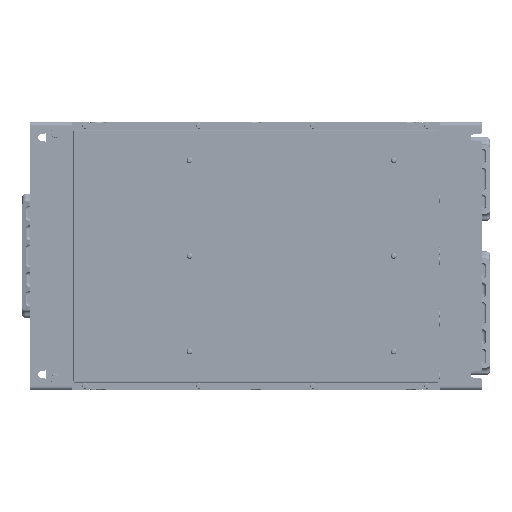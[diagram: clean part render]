
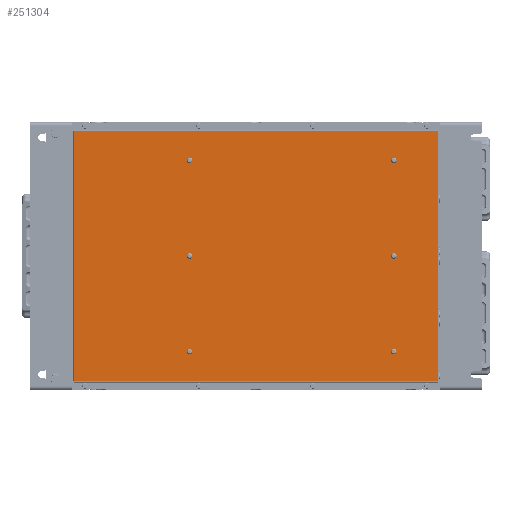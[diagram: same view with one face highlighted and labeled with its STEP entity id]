
A CAD part, front view. The second image highlights one B-rep face of the part: STEP entity #251304.
In plain terms, the highlighted planar face has unit normal (0, -1, 0).
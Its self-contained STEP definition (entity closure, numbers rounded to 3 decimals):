
#226663=DIRECTION('',(0.,0.,1.));
#226664=VECTOR('',#226663,475.);
#226665=CARTESIAN_POINT('',(-164.,-1.,-237.5));
#226666=LINE('',#226665,#226664);
#226721=DIRECTION('',(1.,0.,0.));
#226722=VECTOR('',#226721,328.);
#226723=CARTESIAN_POINT('',(-164.,-1.,237.5));
#226724=LINE('',#226723,#226722);
#236218=DIRECTION('',(0.,0.,-1.));
#236219=VECTOR('',#236218,475.);
#236220=CARTESIAN_POINT('',(164.,-1.,237.5));
#236221=LINE('',#236220,#236219);
#237212=DIRECTION('',(-1.,0.,0.));
#237213=VECTOR('',#237212,328.);
#237214=CARTESIAN_POINT('',(164.,-1.,-237.5));
#237215=LINE('',#237214,#237213);
#237527=CARTESIAN_POINT('',(125.,-1.,-180.));
#237528=DIRECTION('',(0.,-1.,0.));
#237529=DIRECTION('',(1.,0.,0.));
#237530=AXIS2_PLACEMENT_3D('',#237527,#237528,#237529);
#237535=CARTESIAN_POINT('',(125.,-1.,-180.));
#237536=DIRECTION('',(0.,-1.,0.));
#237537=DIRECTION('',(-1.,0.,0.));
#237538=AXIS2_PLACEMENT_3D('',#237535,#237536,#237537);
#237543=CARTESIAN_POINT('',(0.,-1.,-180.));
#237544=DIRECTION('',(0.,-1.,0.));
#237545=DIRECTION('',(1.,0.,0.));
#237546=AXIS2_PLACEMENT_3D('',#237543,#237544,#237545);
#237551=CARTESIAN_POINT('',(0.,-1.,-180.));
#237552=DIRECTION('',(0.,-1.,0.));
#237553=DIRECTION('',(-1.,0.,0.));
#237554=AXIS2_PLACEMENT_3D('',#237551,#237552,#237553);
#237559=CARTESIAN_POINT('',(-125.,-1.,-180.));
#237560=DIRECTION('',(0.,-1.,0.));
#237561=DIRECTION('',(1.,0.,0.));
#237562=AXIS2_PLACEMENT_3D('',#237559,#237560,#237561);
#237567=CARTESIAN_POINT('',(-125.,-1.,-180.));
#237568=DIRECTION('',(0.,-1.,0.));
#237569=DIRECTION('',(-1.,0.,0.));
#237570=AXIS2_PLACEMENT_3D('',#237567,#237568,#237569);
#237575=CARTESIAN_POINT('',(125.,-1.,87.));
#237576=DIRECTION('',(0.,-1.,0.));
#237577=DIRECTION('',(1.,0.,0.));
#237578=AXIS2_PLACEMENT_3D('',#237575,#237576,#237577);
#237583=CARTESIAN_POINT('',(125.,-1.,87.));
#237584=DIRECTION('',(0.,-1.,0.));
#237585=DIRECTION('',(-1.,0.,0.));
#237586=AXIS2_PLACEMENT_3D('',#237583,#237584,#237585);
#237591=CARTESIAN_POINT('',(0.,-1.,87.));
#237592=DIRECTION('',(0.,-1.,0.));
#237593=DIRECTION('',(1.,0.,0.));
#237594=AXIS2_PLACEMENT_3D('',#237591,#237592,#237593);
#237599=CARTESIAN_POINT('',(0.,-1.,87.));
#237600=DIRECTION('',(0.,-1.,0.));
#237601=DIRECTION('',(-1.,0.,0.));
#237602=AXIS2_PLACEMENT_3D('',#237599,#237600,#237601);
#237607=CARTESIAN_POINT('',(-125.,-1.,87.));
#237608=DIRECTION('',(0.,-1.,0.));
#237609=DIRECTION('',(1.,0.,0.));
#237610=AXIS2_PLACEMENT_3D('',#237607,#237608,#237609);
#237615=CARTESIAN_POINT('',(-125.,-1.,87.));
#237616=DIRECTION('',(0.,-1.,0.));
#237617=DIRECTION('',(-1.,0.,0.));
#237618=AXIS2_PLACEMENT_3D('',#237615,#237616,#237617);
#243259=CARTESIAN_POINT('',(164.,-1.,-237.5));
#243260=VERTEX_POINT('',#243259);
#243261=CARTESIAN_POINT('',(164.,-1.,237.5));
#243262=VERTEX_POINT('',#243261);
#243275=CARTESIAN_POINT('',(-164.,-1.,237.5));
#243276=VERTEX_POINT('',#243275);
#243277=CARTESIAN_POINT('',(-164.,-1.,-237.5));
#243278=VERTEX_POINT('',#243277);
#243451=CARTESIAN_POINT('',(127.25,-1.,-180.));
#243452=CARTESIAN_POINT('',(122.75,-1.,-180.));
#243453=VERTEX_POINT('',#243451);
#243454=VERTEX_POINT('',#243452);
#243459=CARTESIAN_POINT('',(2.25,-1.,-180.));
#243460=CARTESIAN_POINT('',(-2.25,-1.,-180.));
#243461=VERTEX_POINT('',#243459);
#243462=VERTEX_POINT('',#243460);
#243467=CARTESIAN_POINT('',(-122.75,-1.,-180.));
#243468=CARTESIAN_POINT('',(-127.25,-1.,-180.));
#243469=VERTEX_POINT('',#243467);
#243470=VERTEX_POINT('',#243468);
#243475=CARTESIAN_POINT('',(127.25,-1.,87.));
#243476=CARTESIAN_POINT('',(122.75,-1.,87.));
#243477=VERTEX_POINT('',#243475);
#243478=VERTEX_POINT('',#243476);
#243483=CARTESIAN_POINT('',(2.25,-1.,87.));
#243484=CARTESIAN_POINT('',(-2.25,-1.,87.));
#243485=VERTEX_POINT('',#243483);
#243486=VERTEX_POINT('',#243484);
#243491=CARTESIAN_POINT('',(-122.75,-1.,87.));
#243492=CARTESIAN_POINT('',(-127.25,-1.,87.));
#243493=VERTEX_POINT('',#243491);
#243494=VERTEX_POINT('',#243492);
#251257=CARTESIAN_POINT('',(0.,-1.,0.));
#251258=DIRECTION('',(0.,1.,0.));
#251259=DIRECTION('',(1.,0.,0.));
#251260=AXIS2_PLACEMENT_3D('',#251257,#251258,#251259);
#251261=PLANE('',#251260);
#251262=ORIENTED_EDGE('',*,*,#246834,.T.);
#251263=ORIENTED_EDGE('',*,*,#246903,.T.);
#251264=ORIENTED_EDGE('',*,*,#250149,.T.);
#251265=ORIENTED_EDGE('',*,*,#250976,.T.);
#251266=EDGE_LOOP('',(#251262,#251263,#251264,#251265));
#251267=FACE_OUTER_BOUND('',#251266,.F.);
#251269=ORIENTED_EDGE('',*,*,#251268,.T.);
#251271=ORIENTED_EDGE('',*,*,#251270,.T.);
#251272=EDGE_LOOP('',(#251269,#251271));
#251273=FACE_BOUND('',#251272,.F.);
#251275=ORIENTED_EDGE('',*,*,#251274,.T.);
#251277=ORIENTED_EDGE('',*,*,#251276,.T.);
#251278=EDGE_LOOP('',(#251275,#251277));
#251279=FACE_BOUND('',#251278,.F.);
#251281=ORIENTED_EDGE('',*,*,#251280,.T.);
#251283=ORIENTED_EDGE('',*,*,#251282,.T.);
#251284=EDGE_LOOP('',(#251281,#251283));
#251285=FACE_BOUND('',#251284,.F.);
#251287=ORIENTED_EDGE('',*,*,#251286,.T.);
#251289=ORIENTED_EDGE('',*,*,#251288,.T.);
#251290=EDGE_LOOP('',(#251287,#251289));
#251291=FACE_BOUND('',#251290,.F.);
#251293=ORIENTED_EDGE('',*,*,#251292,.T.);
#251295=ORIENTED_EDGE('',*,*,#251294,.T.);
#251296=EDGE_LOOP('',(#251293,#251295));
#251297=FACE_BOUND('',#251296,.F.);
#251299=ORIENTED_EDGE('',*,*,#251298,.T.);
#251301=ORIENTED_EDGE('',*,*,#251300,.T.);
#251302=EDGE_LOOP('',(#251299,#251301));
#251303=FACE_BOUND('',#251302,.F.);
#251304=ADVANCED_FACE('',(#251267,#251273,#251279,#251285,#251291,#251297,
#251303),#251261,.F.);
#237531=CIRCLE('',#237530,2.25);
#237539=CIRCLE('',#237538,2.25);
#237547=CIRCLE('',#237546,2.25);
#237555=CIRCLE('',#237554,2.25);
#237563=CIRCLE('',#237562,2.25);
#237571=CIRCLE('',#237570,2.25);
#237579=CIRCLE('',#237578,2.25);
#237587=CIRCLE('',#237586,2.25);
#237595=CIRCLE('',#237594,2.25);
#237603=CIRCLE('',#237602,2.25);
#237611=CIRCLE('',#237610,2.25);
#237619=CIRCLE('',#237618,2.25);
#246834=EDGE_CURVE('',#243278,#243276,#226666,.T.);
#246903=EDGE_CURVE('',#243276,#243262,#226724,.T.);
#250149=EDGE_CURVE('',#243262,#243260,#236221,.T.);
#250976=EDGE_CURVE('',#243260,#243278,#237215,.T.);
#251268=EDGE_CURVE('',#243453,#243454,#237531,.T.);
#251270=EDGE_CURVE('',#243454,#243453,#237539,.T.);
#251274=EDGE_CURVE('',#243461,#243462,#237547,.T.);
#251276=EDGE_CURVE('',#243462,#243461,#237555,.T.);
#251280=EDGE_CURVE('',#243469,#243470,#237563,.T.);
#251282=EDGE_CURVE('',#243470,#243469,#237571,.T.);
#251286=EDGE_CURVE('',#243477,#243478,#237579,.T.);
#251288=EDGE_CURVE('',#243478,#243477,#237587,.T.);
#251292=EDGE_CURVE('',#243485,#243486,#237595,.T.);
#251294=EDGE_CURVE('',#243486,#243485,#237603,.T.);
#251298=EDGE_CURVE('',#243493,#243494,#237611,.T.);
#251300=EDGE_CURVE('',#243494,#243493,#237619,.T.);
